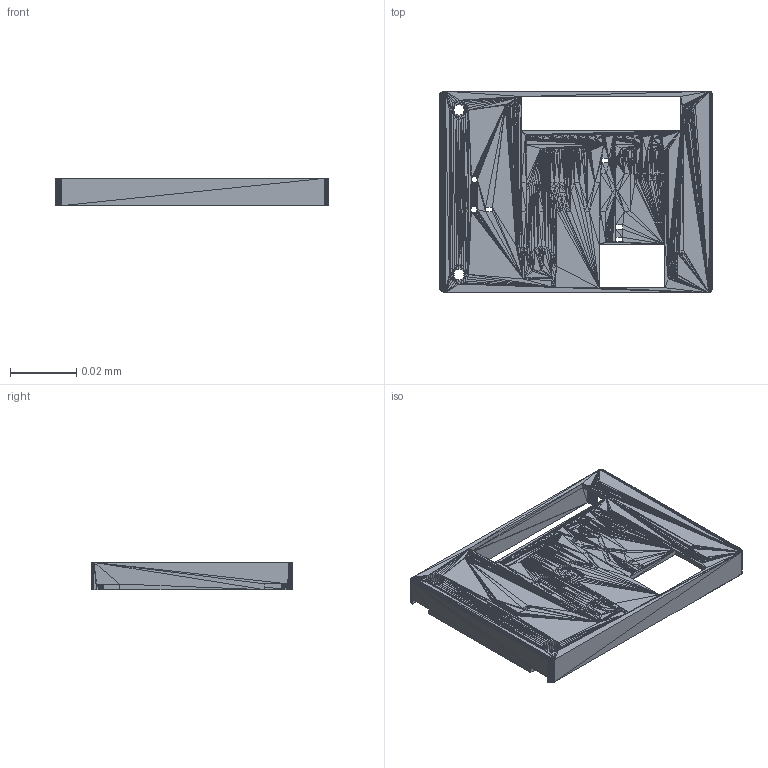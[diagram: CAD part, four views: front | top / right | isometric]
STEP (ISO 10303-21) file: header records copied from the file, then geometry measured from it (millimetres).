
FILE_DESCRIPTION(('AUTOMAPKI'),'2;1');
FILE_NAME('navx-mxp-roborio-lid_v4_scaleddown','2020-02-07T11:06:50',( 'AUTOMAPKI'),('AUTOMAPKI'),'Open CASCADE STEP processor 7.3', 'AUTOMAPKI','Unknown');
FILE_SCHEMA(('AUTOMOTIVE_DESIGN { 1 0 10303 214 1 1 1 1 }'));
Length unit declared in the file: millimetre
Products named in the file (2): AUTOMAPKI 1; Group1
Bounding box: 0.08 x 0.06 x 0.01 mm (x, y, z)
Surface area: 0 mm2 (no closed solid volume)
Topology: 0 solids, 28 shells, 12663 faces, 19024 edges, 6369 vertices
Faces by surface type: plane 12663
Entity records: 247482 total; most frequent: DIRECTION 44350, CARTESIAN_POINT 38056, ORIENTED_EDGE 37988, EDGE_CURVE 19024, LINE 19024, VECTOR 19024, EDGE_LOOP 12664, AXIS2_PLACEMENT_3D 12663
